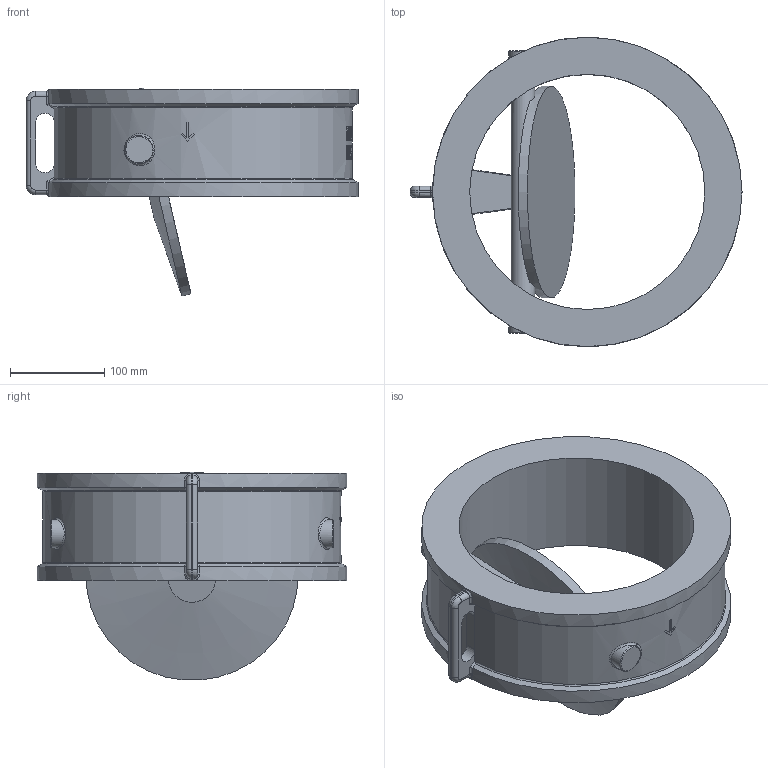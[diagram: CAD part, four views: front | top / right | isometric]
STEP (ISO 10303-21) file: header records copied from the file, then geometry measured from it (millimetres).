
FILE_DESCRIPTION( ( 'Unknown' ), '1' );
FILE_NAME( 'C:/Documents and Settings/Klaus/My Documents/Rootsi BPS 3D, Klaus/BPS 6530 tilting disc check valve/STEP/BPS6530250 tilting disc check valve DN250.stp', 'Unknown', ( 'Unknown' ), ( 'Unknown' ), 'PSStep 10.1', 'Unknown', ' ' );
FILE_SCHEMA( ( 'AUTOMOTIVE_DESIGN { 1 0 10303 214 1 1 1 1 }' ) );
Length unit declared in the file: millimetre
Products named in the file (1): 1
Bounding box: 353 x 329 x 221.09 mm (x, y, z)
Volume: 4341462 mm3; surface area: 387476.4 mm2
Topology: 1 solids, 1 shells, 255 faces, 631 edges, 409 vertices
Faces by surface type: bspline 99, plane 89, cylinder 53, torus 10, cone 4
Full cylindrical faces by diameter (mm): 25 x1, 225 x1, 250 x1
Entity records: 26143 total; most frequent: CARTESIAN_POINT 19336, ORIENTED_EDGE 1238, EDGE_CURVE 619, B_SPLINE_CURVE_WITH_KNOTS 506, DIRECTION 494, VERTEX_POINT 407, EDGE_LOOP 304, FACE_OUTER_BOUND 264
